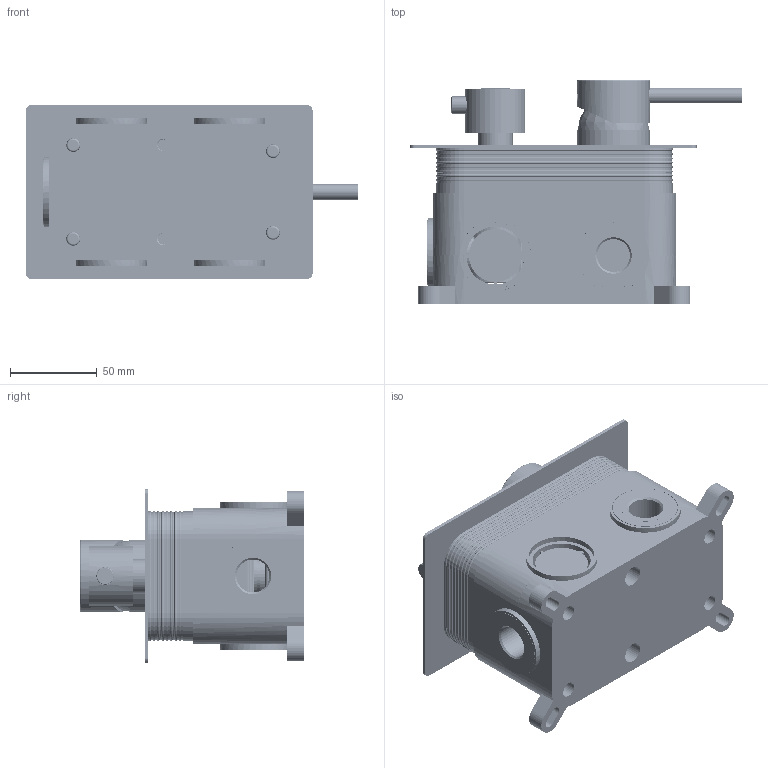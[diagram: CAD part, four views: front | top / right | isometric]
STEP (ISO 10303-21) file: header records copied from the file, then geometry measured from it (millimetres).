
FILE_DESCRIPTION (( 'STEP AP203' ), '1' );
FILE_NAME ('RON45.STEP', '2024-01-25T13:10:57', ( '' ), ( '' ), 'SwSTEP 2.0', 'SolidWorks 2023', '' );
FILE_SCHEMA (( 'CONFIG_CONTROL_DESIGN' ));
Length unit declared in the file: millimetre
Products named in the file (17): PIA RET1; 35半圆罩.stp; 铜两档阀芯.stp; C18.12.0005.01; 35主体阀芯.stp; 手轮棒.stp; 20装饰套.stp; 橡胶圈.stp; 锁紧螺丝.stp; 35压帽.stp; 普通2连预埋盒下.stp; 调档手轮.stp; PG-1002-1.stp; 35装饰罩-圆.stp; RON45; 1002-1主体-减轻.stp; 普通2连预埋盒上.stp
Assembly tree (22 placements, depth 3):
  RON45
    PG-1002-1.stp
      普通2连预埋盒下.stp
      普通2连预埋盒上.stp
      橡胶圈.stp  x4
      锁紧螺丝.stp  x4
      1002-1主体-减轻.stp
      铜两档阀芯.stp
      35主体阀芯.stp
      35装饰罩-圆.stp
      35压帽.stp
      35半圆罩.stp
      20装饰套.stp
      调档手轮.stp
      手轮棒.stp
    C18.12.0005.01
    PIA RET1
Bounding box: 191.18 x 128.9 x 100 mm (x, y, z)
Volume: 350311.1 mm3; surface area: 280575 mm2
Topology: 23 solids, 23 shells, 2778 faces, 7222 edges, 4544 vertices
Faces by surface type: cylinder 1348, plane 716, bspline 267, torus 250, cone 161, sphere 36
Entity records: 138059 total; most frequent: CARTESIAN_POINT 80447, ORIENTED_EDGE 12056, DIRECTION 11182, EDGE_CURVE 6028, AXIS2_PLACEMENT_3D 4335, VERTEX_POINT 3794, EDGE_LOOP 2530, LINE 2512
